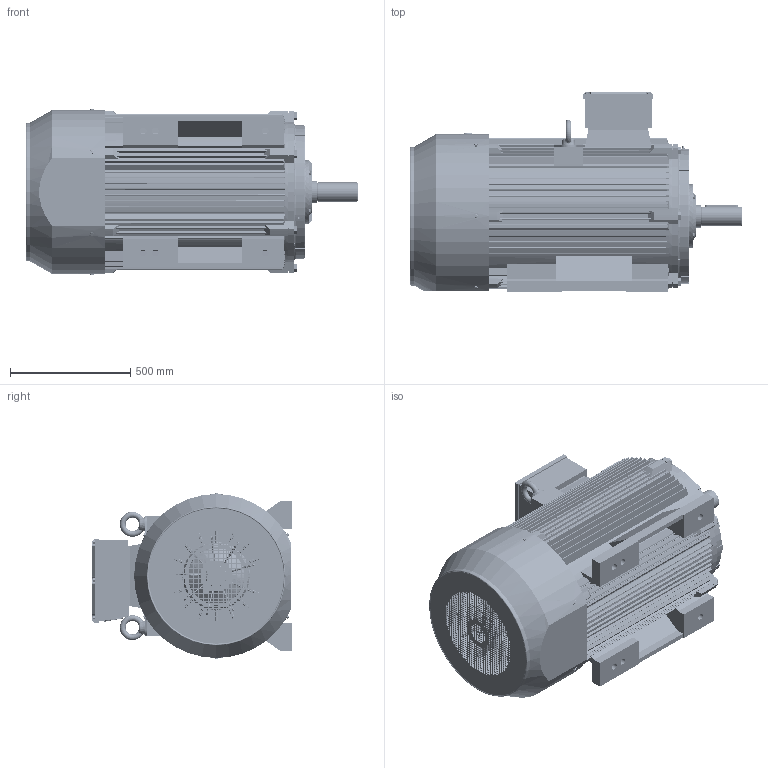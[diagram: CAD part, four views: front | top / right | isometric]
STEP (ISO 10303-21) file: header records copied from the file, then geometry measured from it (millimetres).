
FILE_DESCRIPTION (( 'STEP AP214' ), '1' );
FILE_NAME ('BCT3200.31J403.11.STEP', '2020-04-23T13:40:09', ( '' ), ( '' ), 'SwSTEP 2.0', 'SolidWorks 2019', '' );
FILE_SCHEMA (( 'AUTOMOTIVE_DESIGN' ));
Length unit declared in the file: millimetre
Products named in the file (1): BCT3200.31J403.11
Bounding box: 1382 x 831 x 694.6 mm (x, y, z)
Volume: 114756900.6 mm3; surface area: 13167630.3 mm2
Topology: 48 solids, 48 shells, 8529 faces, 23667 edges, 15430 vertices
Faces by surface type: plane 5857, cylinder 1014, cone 499, torus 486, sphere 368, bspline 305
Entity records: 335563 total; most frequent: CARTESIAN_POINT 116241, ORIENTED_EDGE 47306, DIRECTION 41359, EDGE_CURVE 23653, LINE 16489, VECTOR 16489, VERTEX_POINT 15426, AXIS2_PLACEMENT_3D 12435
